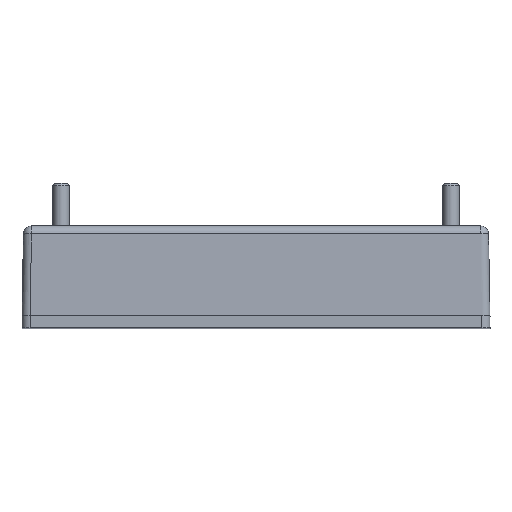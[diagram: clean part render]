
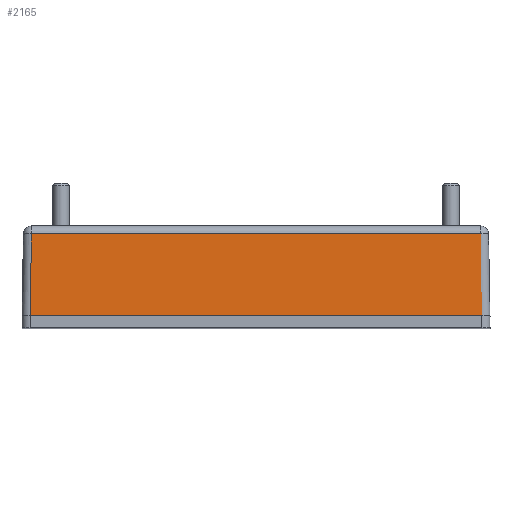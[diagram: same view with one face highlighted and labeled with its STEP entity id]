
A CAD part, top view. The second image highlights one B-rep face of the part: STEP entity #2165.
In plain terms, the highlighted planar face has unit normal (0, 0.018, 1).
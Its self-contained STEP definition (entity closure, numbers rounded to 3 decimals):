
#106 = EDGE_CURVE ( 'NONE', #7389, #1831, #1101, .T. ) ;
#220 = DIRECTION ( 'NONE',  ( 0., 0., 1. ) ) ;
#250 = VECTOR ( 'NONE', #3793, 1000. ) ;
#1101 = LINE ( 'NONE', #5260, #4815 ) ;
#1410 = DIRECTION ( 'NONE',  ( 1., 0., 0. ) ) ;
#1831 = VERTEX_POINT ( 'NONE', #5907 ) ;
#2014 = ORIENTED_EDGE ( 'NONE', *, *, #6304, .T. ) ;
#2165 = ADVANCED_FACE ( 'NONE', ( #6701 ), #8872, .T. ) ;
#2412 = CARTESIAN_POINT ( 'NONE',  ( 27.95, 1.5, 29.5 ) ) ;
#2932 = CARTESIAN_POINT ( 'NONE',  ( -28.756, 11.617, 30.323 ) ) ;
#3062 = ORIENTED_EDGE ( 'NONE', *, *, #3919, .T. ) ;
#3396 = CARTESIAN_POINT ( 'NONE',  ( -28.95, 1.5, 30.5 ) ) ;
#3793 = DIRECTION ( 'NONE',  ( -0.017, -1., 0.017 ) ) ;
#3850 = VERTEX_POINT ( 'NONE', #3921 ) ;
#3919 = EDGE_CURVE ( 'NONE', #10343, #11092, #8203, .T. ) ;
#3921 = CARTESIAN_POINT ( 'NONE',  ( 27.95, 1.5, 30.5 ) ) ;
#4065 = DIRECTION ( 'NONE',  ( 1., 0., 0. ) ) ;
#4306 = ORIENTED_EDGE ( 'NONE', *, *, #4509, .T. ) ;
#4475 = CARTESIAN_POINT ( 'NONE',  ( 27.774, 11.617, 30.323 ) ) ;
#4509 = EDGE_CURVE ( 'NONE', #1831, #3850, #7118, .T. ) ;
#4815 = VECTOR ( 'NONE', #4065, 1000. ) ;
#4865 = VECTOR ( 'NONE', #5885, 1000. ) ;
#5260 = CARTESIAN_POINT ( 'NONE',  ( -28.95, 1.5, 30.5 ) ) ;
#5577 = DIRECTION ( 'NONE',  ( 0., 1., 0. ) ) ;
#5885 = DIRECTION ( 'NONE',  ( -0.017, 1., -0.017 ) ) ;
#5907 = CARTESIAN_POINT ( 'NONE',  ( 27.95, 1.5, 30.5 ) ) ;
#6304 = EDGE_CURVE ( 'NONE', #3850, #10343, #8972, .T. ) ;
#6701 = FACE_OUTER_BOUND ( 'NONE', #12163, .T. ) ;
#6943 = CARTESIAN_POINT ( 'NONE',  ( 27.933, 2.493, 30.483 ) ) ;
#7118 = CIRCLE ( 'NONE', #13832, 1. ) ;
#7329 = VECTOR ( 'NONE', #8343, 1000. ) ;
#7389 = VERTEX_POINT ( 'NONE', #13087 ) ;
#7510 = ORIENTED_EDGE ( 'NONE', *, *, #106, .T. ) ;
#8203 = LINE ( 'NONE', #2932, #7329 ) ;
#8217 = LINE ( 'NONE', #12578, #250 ) ;
#8254 = ORIENTED_EDGE ( 'NONE', *, *, #8958, .T. ) ;
#8343 = DIRECTION ( 'NONE',  ( -1., 0., 0. ) ) ;
#8646 = AXIS2_PLACEMENT_3D ( 'NONE', #3396, #13083, #1410 ) ;
#8872 = PLANE ( 'NONE',  #8646 ) ;
#8958 = EDGE_CURVE ( 'NONE', #11092, #7389, #8217, .T. ) ;
#8972 = LINE ( 'NONE', #6943, #4865 ) ;
#10320 = CARTESIAN_POINT ( 'NONE',  ( -27.774, 11.617, 30.323 ) ) ;
#10343 = VERTEX_POINT ( 'NONE', #4475 ) ;
#11092 = VERTEX_POINT ( 'NONE', #10320 ) ;
#12163 = EDGE_LOOP ( 'NONE', ( #7510, #4306, #2014, #3062, #8254 ) ) ;
#12578 = CARTESIAN_POINT ( 'NONE',  ( -27.95, 1.483, 30.5 ) ) ;
#13083 = DIRECTION ( 'NONE',  ( 0., 0.017, 1. ) ) ;
#13087 = CARTESIAN_POINT ( 'NONE',  ( -27.95, 1.5, 30.5 ) ) ;
#13832 = AXIS2_PLACEMENT_3D ( 'NONE', #2412, #5577, #220 ) ;
